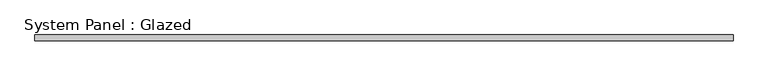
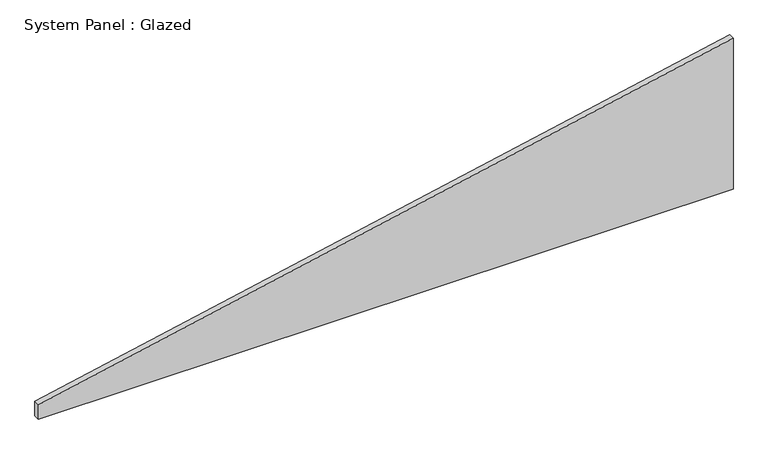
"""IFC4 building model written with IfcOpenShell, lengths in millimetres: plate geometry, System Panel : Glazed."""

from ifc_helpers import new_model, si_unit, frame, origin, place, context, project, spatial, polyline, outline, extrude, source, transform, mapped, element, save


def system_panel_glazed_386e10ea(model_context):
    return source(origin(), model_context, "Body", "SweptSolid", [
        extrude(outline(polyline([(0.0, -1504.95), (0.0, 1504.95), (692.2896093, 1504.95), (65.3115504, -1504.95), (0.0, -1504.95)])), frame((0.0, 19.05, 0.0), z_axis=(0.0, 1.0, 0.0), x_axis=(0.0, 0.0, 1.0)), (0.0, 0.0, 1.0), 25.4),
    ])


if __name__ == "__main__":
    model = new_model("IFC4")
    model_context = context("Model", 3, world=origin())
    ifc_project = project(units=[si_unit("LENGTHUNIT", "METRE", prefix="MILLI")], contexts=[model_context])
    site = spatial("IfcSite", under=ifc_project)
    building = spatial("IfcBuilding", under=site)
    placement = place(None, origin())
    system_panel_glazed_shape = system_panel_glazed_386e10ea(model_context)
    element("IfcPlate", 1, ObjectType="System Panel : Glazed", at=placement, inside=building, context=model_context, shape_type="MappedRepresentation", body=[
        mapped(system_panel_glazed_shape, transform((0.0, 0.0, 0.0), x_axis=(1.0, 0.0, 0.0), y_axis=(0.0, 1.0, 0.0), z_axis=(0.0, 0.0, 1.0))),
    ])
    save(model, "model.ifc")
